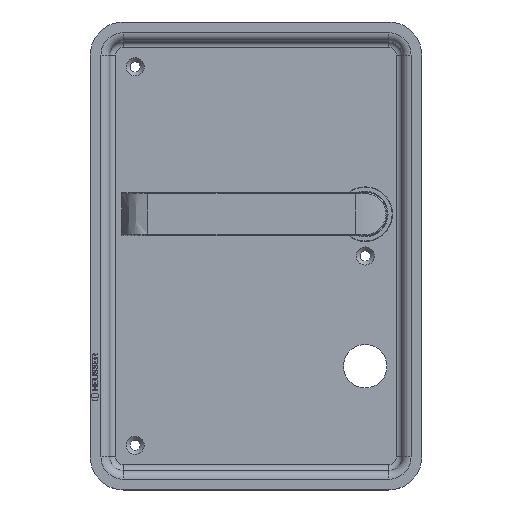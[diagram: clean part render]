
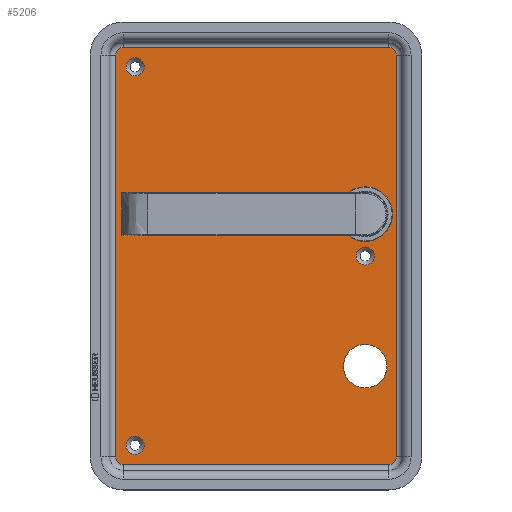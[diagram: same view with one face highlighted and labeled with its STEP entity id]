
A CAD part, top view. The second image highlights one B-rep face of the part: STEP entity #5206.
In plain terms, the highlighted planar face has unit normal (0, 0, 1).
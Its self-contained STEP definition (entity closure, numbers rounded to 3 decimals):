
#319=FACE_BOUND('',#1635,.T.);
#320=FACE_BOUND('',#1636,.T.);
#321=FACE_BOUND('',#1637,.T.);
#322=FACE_BOUND('',#1638,.T.);
#323=FACE_BOUND('',#1639,.T.);
#392=LINE('',#8242,#786);
#393=LINE('',#8246,#787);
#394=LINE('',#8250,#788);
#395=LINE('',#8254,#789);
#786=VECTOR('',#6217,10.);
#787=VECTOR('',#6220,10.);
#788=VECTOR('',#6223,10.);
#789=VECTOR('',#6226,10.);
#1285=FACE_OUTER_BOUND('',#1634,.T.);
#1634=EDGE_LOOP('',(#3523,#3524,#3525,#3526,#3527,#3528,#3529,#3530));
#1635=EDGE_LOOP('',(#3531));
#1636=EDGE_LOOP('',(#3532));
#1637=EDGE_LOOP('',(#3533));
#1638=EDGE_LOOP('',(#3534));
#1639=EDGE_LOOP('',(#3535));
#1954=CIRCLE('',#5566,14.);
#1957=CIRCLE('',#5572,11.15);
#1967=CIRCLE('',#5589,4.65);
#1968=CIRCLE('',#5591,4.);
#1969=CIRCLE('',#5592,4.);
#1970=CIRCLE('',#5593,4.);
#1971=CIRCLE('',#5594,4.);
#1972=CIRCLE('',#5595,4.65);
#1973=CIRCLE('',#5596,4.65);
#2152=VERTEX_POINT('',#8201);
#2155=VERTEX_POINT('',#8210);
#2165=VERTEX_POINT('',#8237);
#2166=VERTEX_POINT('',#8240);
#2167=VERTEX_POINT('',#8241);
#2168=VERTEX_POINT('',#8243);
#2169=VERTEX_POINT('',#8245);
#2170=VERTEX_POINT('',#8247);
#2171=VERTEX_POINT('',#8249);
#2172=VERTEX_POINT('',#8251);
#2173=VERTEX_POINT('',#8253);
#2174=VERTEX_POINT('',#8256);
#2175=VERTEX_POINT('',#8258);
#2668=EDGE_CURVE('',#2152,#2152,#1954,.T.);
#2671=EDGE_CURVE('',#2155,#2155,#1957,.T.);
#2681=EDGE_CURVE('',#2165,#2165,#1967,.T.);
#2682=EDGE_CURVE('',#2166,#2167,#392,.T.);
#2683=EDGE_CURVE('',#2168,#2166,#1968,.T.);
#2684=EDGE_CURVE('',#2169,#2168,#393,.T.);
#2685=EDGE_CURVE('',#2170,#2169,#1969,.T.);
#2686=EDGE_CURVE('',#2171,#2170,#394,.T.);
#2687=EDGE_CURVE('',#2172,#2171,#1970,.T.);
#2688=EDGE_CURVE('',#2173,#2172,#395,.T.);
#2689=EDGE_CURVE('',#2167,#2173,#1971,.T.);
#2690=EDGE_CURVE('',#2174,#2174,#1972,.T.);
#2691=EDGE_CURVE('',#2175,#2175,#1973,.T.);
#3523=ORIENTED_EDGE('',*,*,#2682,.F.);
#3524=ORIENTED_EDGE('',*,*,#2683,.F.);
#3525=ORIENTED_EDGE('',*,*,#2684,.F.);
#3526=ORIENTED_EDGE('',*,*,#2685,.F.);
#3527=ORIENTED_EDGE('',*,*,#2686,.F.);
#3528=ORIENTED_EDGE('',*,*,#2687,.F.);
#3529=ORIENTED_EDGE('',*,*,#2688,.F.);
#3530=ORIENTED_EDGE('',*,*,#2689,.F.);
#3531=ORIENTED_EDGE('',*,*,#2668,.T.);
#3532=ORIENTED_EDGE('',*,*,#2671,.T.);
#3533=ORIENTED_EDGE('',*,*,#2690,.F.);
#3534=ORIENTED_EDGE('',*,*,#2691,.F.);
#3535=ORIENTED_EDGE('',*,*,#2681,.F.);
#4714=PLANE('',#5590);
#5206=ADVANCED_FACE('',(#1285,#319,#320,#321,#322,#323),#4714,.T.);
#5566=AXIS2_PLACEMENT_3D('',#8202,#6167,#6168);
#5572=AXIS2_PLACEMENT_3D('',#8211,#6179,#6180);
#5589=AXIS2_PLACEMENT_3D('',#8238,#6213,#6214);
#5590=AXIS2_PLACEMENT_3D('',#8239,#6215,#6216);
#5591=AXIS2_PLACEMENT_3D('',#8244,#6218,#6219);
#5592=AXIS2_PLACEMENT_3D('',#8248,#6221,#6222);
#5593=AXIS2_PLACEMENT_3D('',#8252,#6224,#6225);
#5594=AXIS2_PLACEMENT_3D('',#8255,#6227,#6228);
#5595=AXIS2_PLACEMENT_3D('',#8257,#6229,#6230);
#5596=AXIS2_PLACEMENT_3D('',#8259,#6231,#6232);
#6167=DIRECTION('center_axis',(0.,0.,-1.));
#6168=DIRECTION('ref_axis',(1.,0.,0.));
#6179=DIRECTION('center_axis',(0.,0.,-1.));
#6180=DIRECTION('ref_axis',(-1.,0.,0.));
#6213=DIRECTION('center_axis',(0.,0.,1.));
#6214=DIRECTION('ref_axis',(-1.,0.,0.));
#6215=DIRECTION('center_axis',(0.,0.,1.));
#6216=DIRECTION('ref_axis',(1.,0.,0.));
#6217=DIRECTION('',(0.,1.,0.));
#6218=DIRECTION('center_axis',(0.,0.,-1.));
#6219=DIRECTION('ref_axis',(-0.707,-0.707,0.));
#6220=DIRECTION('',(-1.,0.,0.));
#6221=DIRECTION('center_axis',(0.,0.,-1.));
#6222=DIRECTION('ref_axis',(0.707,-0.707,0.));
#6223=DIRECTION('',(0.,-1.,0.));
#6224=DIRECTION('center_axis',(0.,0.,-1.));
#6225=DIRECTION('ref_axis',(0.707,0.707,0.));
#6226=DIRECTION('',(1.,0.,0.));
#6227=DIRECTION('center_axis',(0.,0.,-1.));
#6228=DIRECTION('ref_axis',(-0.707,0.707,0.));
#6229=DIRECTION('center_axis',(0.,0.,1.));
#6230=DIRECTION('ref_axis',(-1.,0.,0.));
#6231=DIRECTION('center_axis',(0.,0.,1.));
#6232=DIRECTION('ref_axis',(-1.,0.,0.));
#8201=CARTESIAN_POINT('',(15.204,26.549,-9.));
#8202=CARTESIAN_POINT('Origin',(29.204,26.549,-9.));
#8210=CARTESIAN_POINT('',(40.354,-51.451,-9.));
#8211=CARTESIAN_POINT('Origin',(29.204,-51.451,-9.));
#8237=CARTESIAN_POINT('',(33.854,5.049,-9.));
#8238=CARTESIAN_POINT('Origin',(29.204,5.049,-9.));
#8239=CARTESIAN_POINT('Origin',(-26.796,5.049,-9.));
#8240=CARTESIAN_POINT('',(-98.796,-97.951,-9.));
#8241=CARTESIAN_POINT('',(-98.796,108.049,-9.));
#8242=CARTESIAN_POINT('',(-98.796,-46.451,-9.));
#8243=CARTESIAN_POINT('',(-94.796,-101.951,-9.));
#8244=CARTESIAN_POINT('Origin',(-94.796,-97.951,-9.));
#8245=CARTESIAN_POINT('',(41.204,-101.951,-9.));
#8246=CARTESIAN_POINT('',(7.204,-101.951,-9.));
#8247=CARTESIAN_POINT('',(45.204,-97.951,-9.));
#8248=CARTESIAN_POINT('Origin',(41.204,-97.951,-9.));
#8249=CARTESIAN_POINT('',(45.204,108.049,-9.));
#8250=CARTESIAN_POINT('',(45.204,56.549,-9.));
#8251=CARTESIAN_POINT('',(41.204,112.049,-9.));
#8252=CARTESIAN_POINT('Origin',(41.204,108.049,-9.));
#8253=CARTESIAN_POINT('',(-94.796,112.049,-9.));
#8254=CARTESIAN_POINT('',(-60.796,112.049,-9.));
#8255=CARTESIAN_POINT('Origin',(-94.796,108.049,-9.));
#8256=CARTESIAN_POINT('',(-84.146,102.049,-9.));
#8257=CARTESIAN_POINT('Origin',(-88.796,102.049,-9.));
#8258=CARTESIAN_POINT('',(-84.146,-91.951,-9.));
#8259=CARTESIAN_POINT('Origin',(-88.796,-91.951,-9.));
